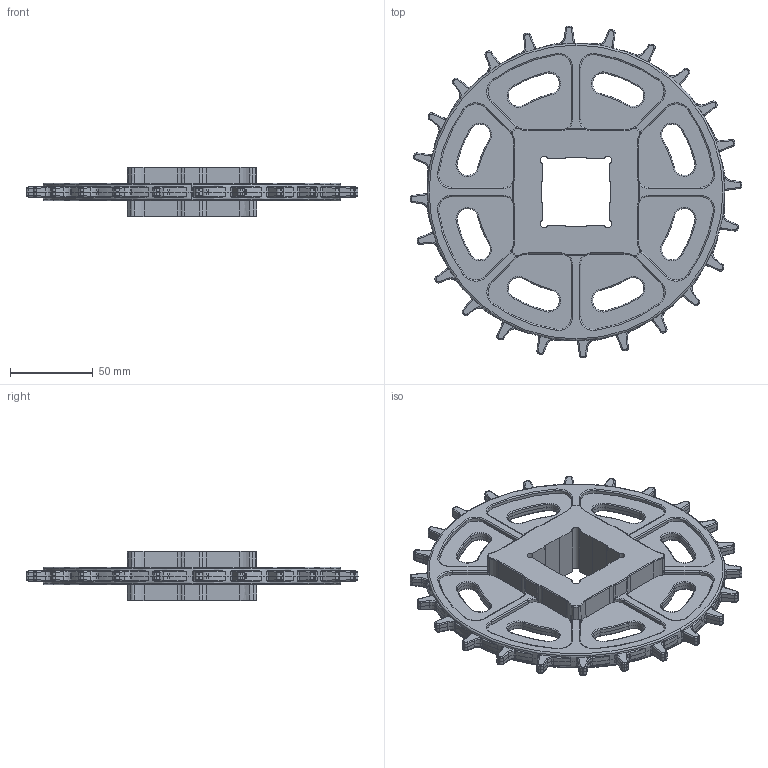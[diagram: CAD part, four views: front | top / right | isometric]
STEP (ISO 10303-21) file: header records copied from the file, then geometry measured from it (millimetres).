
FILE_DESCRIPTION(/* description */ (''),/* implementation_level */ '2;1');
FILE_NAME(/* name */ 'HS-500-24T-S40.stp',/* time_stamp */ '2025-09-17T17:25:35+08:00',/* author */ (''),/* organization */ (''),/* preprocessor_version */ 'ST-DEVELOPER v15',/* originating_system */ 'SIEMENS PLM Software NX 8.5',/* authorisation */ '');
FILE_SCHEMA (('AP203_CONFIGURATION_CONTROLLED_3D_DESIGN_OF_MECHANICAL_PARTS_AND_ASSEMBLIES_MIM_LF { 1 0 10303 403 2 1 2}'));
Products named in the file (1): Admi23A89FF2lsqr
Bounding box: 200.73 x 200.73 x 30.2 mm (x, y, z)
Volume: 250632.9 mm3; surface area: 71866.7 mm2
Topology: 1 solids, 1 shells, 1556 faces, 3976 edges, 2424 vertices
Faces by surface type: cylinder 412, cone 348, torus 308, bspline 264, plane 200, extrusion 24
Entity records: 59456 total; most frequent: CARTESIAN_POINT 25544, ORIENTED_EDGE 7952, DIRECTION 6088, EDGE_CURVE 3976, AXIS2_PLACEMENT_3D 2633, VERTEX_POINT 2424, B_SPLINE_CURVE_WITH_KNOTS 1725, EDGE_LOOP 1576
